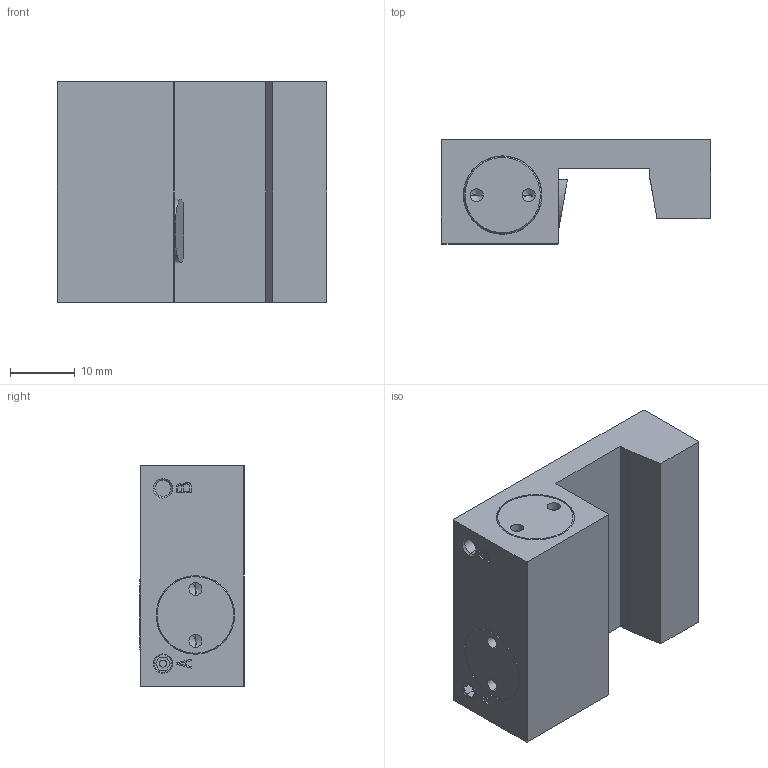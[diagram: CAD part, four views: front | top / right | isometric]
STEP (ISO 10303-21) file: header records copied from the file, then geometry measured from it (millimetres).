
FILE_DESCRIPTION( ( '' ), '1' );
FILE_NAME( 'E:/04 嬴檜蠱滌/0404 ZIMMER/040414 ZIMMER CAD download/MCP/MCP1501M---.stp', '2020-04-16T10:02:31', ( '' ), ( '' ), ' ', ' ', ' ' );
FILE_SCHEMA( ( 'automotive_design' ) );
Length unit declared in the file: millimetre
Products named in the file (1): 1
Bounding box: 41.5 x 16.05 x 34 mm (x, y, z)
Volume: 15584.8 mm3; surface area: 5762.3 mm2
Topology: 1 solids, 1 shells, 116 faces, 271 edges, 170 vertices
Faces by surface type: plane 62, cylinder 32, cone 22
Entity records: 6356 total; most frequent: DIRECTION 577, STYLED_ITEM 550, PRESENTATION_STYLE_ASSIGNMENT 550, CARTESIAN_POINT 550, COLOUR_RGB 550, ORIENTED_EDGE 526, EDGE_CURVE 263, CURVE_STYLE 263
